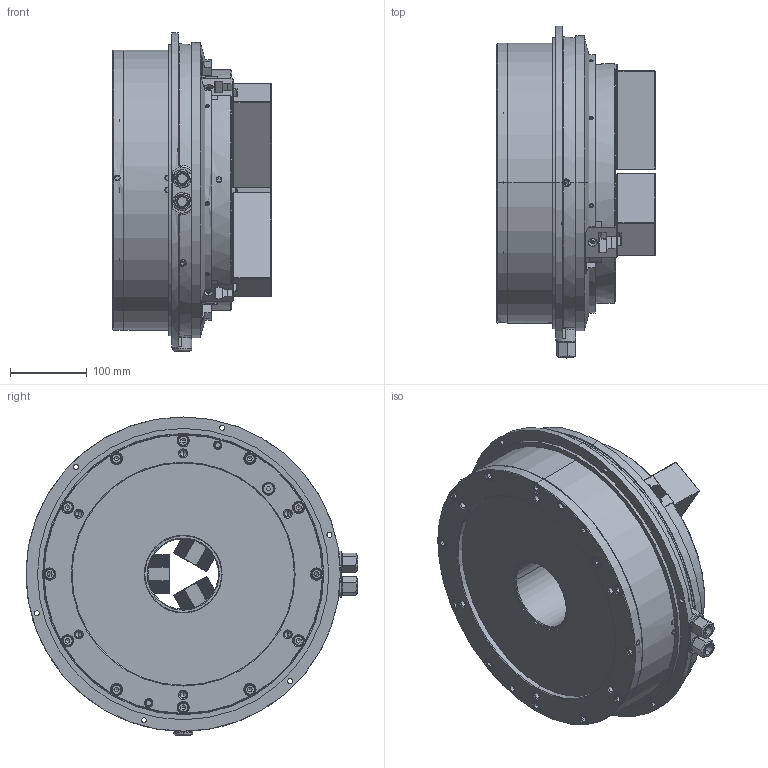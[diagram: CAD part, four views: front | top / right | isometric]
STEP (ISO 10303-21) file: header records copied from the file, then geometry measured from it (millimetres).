
FILE_DESCRIPTION (( 'STEP AP214' ), '1' );
FILE_NAME ('DEV-UVE315K-OC.STEP', '2024-10-03T00:56:44', ( '' ), ( '' ), 'SwSTEP 2.0', 'SolidWorks 2022', '' );
FILE_SCHEMA (( 'AUTOMOTIVE_DESIGN' ));
Length unit declared in the file: millimetre
Products named in the file (6): DEV-UVE315K-OC; Copy of 61P301186^DEV-UVE315K-クミタテ; Copy of 0693000003^DEV-UVE315K-クミタテ; Copy of 61P401342^DEV-UVE315K-クミタテ; Part1^DEV-UVE315K-クミタテ; Copy of 0030114035^DEV-UVE315K-クミタテ
Assembly tree (18 placements, depth 2):
  DEV-UVE315K-OC
    Copy of 61P301186^DEV-UVE315K-クミタテ  x3
    Copy of 61P401342^DEV-UVE315K-クミタテ  x6
    Copy of 0030114035^DEV-UVE315K-クミタテ  x6
    Copy of 0693000003^DEV-UVE315K-クミタテ  x2
    Part1^DEV-UVE315K-クミタテ
Bounding box: 206.45 x 433 x 415 mm (x, y, z)
Volume: 15127766.3 mm3; surface area: 804135.1 mm2
Topology: 18 solids, 54 shells, 7083 faces, 19947 edges, 13048 vertices
Faces by surface type: plane 4044, cylinder 2088, cone 629, bspline 243, torus 59, sphere 20
Entity records: 176824 total; most frequent: CARTESIAN_POINT 52058, ORIENTED_EDGE 28572, DIRECTION 22446, EDGE_CURVE 14286, VERTEX_POINT 9393, VECTOR 9362, LINE 9362, AXIS2_PLACEMENT_3D 6542
